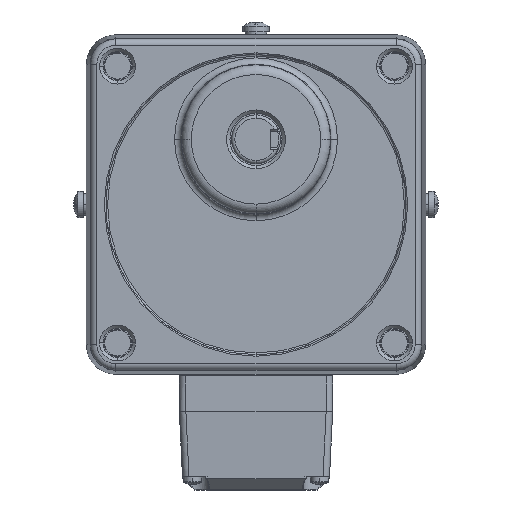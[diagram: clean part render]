
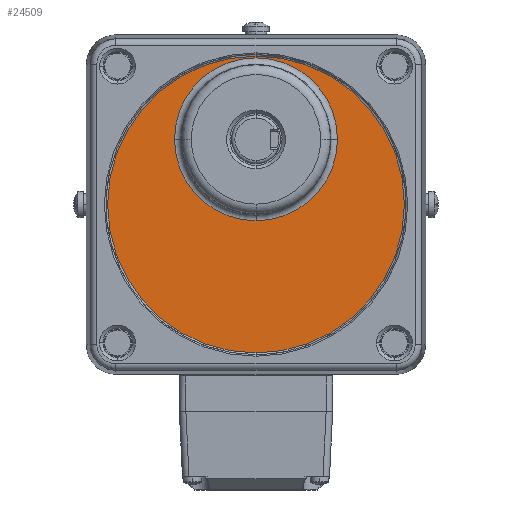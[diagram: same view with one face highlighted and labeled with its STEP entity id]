
A CAD part, left-side view. The second image highlights one B-rep face of the part: STEP entity #24509.
In plain terms, the highlighted planar face has unit normal (-1, 0, 0).
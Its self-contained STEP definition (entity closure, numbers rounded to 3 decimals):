
#2257 = ORIENTED_EDGE ( 'NONE', *, *, #15580, .F. ) ;
#2463 = DIRECTION ( 'NONE',  ( 0., 0., -1. ) ) ;
#2523 = EDGE_CURVE ( 'NONE', #26026, #26782, #23741, .T. ) ;
#2936 = DIRECTION ( 'NONE',  ( 0., -1., 0. ) ) ;
#3171 = CARTESIAN_POINT ( 'NONE',  ( 2949.725, -773.74, -45.491 ) ) ;
#3584 = EDGE_CURVE ( 'NONE', #11725, #34092, #39238, .T. ) ;
#4218 = CIRCLE ( 'NONE', #5624, 24.965 ) ;
#4325 = VERTEX_POINT ( 'NONE', #34793 ) ;
#5478 = CARTESIAN_POINT ( 'NONE',  ( 2949.725, -798.705, -20. ) ) ;
#5624 = AXIS2_PLACEMENT_3D ( 'NONE', #15687, #5798, #39011 ) ;
#5798 = DIRECTION ( 'NONE',  ( -1., 0., 0. ) ) ;
#7789 = ORIENTED_EDGE ( 'NONE', *, *, #14386, .F. ) ;
#9285 = CARTESIAN_POINT ( 'NONE',  ( 2949.725, -773.74, 0. ) ) ;
#10617 = DIRECTION ( 'NONE',  ( -1., 0., 0. ) ) ;
#11725 = VERTEX_POINT ( 'NONE', #21618 ) ;
#13341 = CIRCLE ( 'NONE', #19644, 24.965 ) ;
#14386 = EDGE_CURVE ( 'NONE', #34092, #11725, #22451, .T. ) ;
#15580 = EDGE_CURVE ( 'NONE', #26782, #4325, #13341, .T. ) ;
#15636 = EDGE_CURVE ( 'NONE', #4325, #26026, #4218, .T. ) ;
#15687 = CARTESIAN_POINT ( 'NONE',  ( 2949.725, -773.74, -20. ) ) ;
#16988 = FACE_BOUND ( 'NONE', #19391, .T. ) ;
#18678 = CARTESIAN_POINT ( 'NONE',  ( 2949.725, -773.74, 0. ) ) ;
#18695 = ORIENTED_EDGE ( 'NONE', *, *, #15636, .F. ) ;
#18936 = AXIS2_PLACEMENT_3D ( 'NONE', #9285, #35464, #2463 ) ;
#19391 = EDGE_LOOP ( 'NONE', ( #40666, #18695, #2257 ) ) ;
#19644 = AXIS2_PLACEMENT_3D ( 'NONE', #33046, #39219, #2936 ) ;
#21618 = CARTESIAN_POINT ( 'NONE',  ( 2949.725, -773.74, 45.491 ) ) ;
#21653 = CARTESIAN_POINT ( 'NONE',  ( 2949.725, -773.74, 4.965 ) ) ;
#22451 = CIRCLE ( 'NONE', #18936, 45.491 ) ;
#22992 = EDGE_LOOP ( 'NONE', ( #7789, #30287 ) ) ;
#23078 = AXIS2_PLACEMENT_3D ( 'NONE', #18678, #31225, #28368 ) ;
#23591 = PLANE ( 'NONE',  #37911 ) ;
#23741 = CIRCLE ( 'NONE', #26524, 24.965 ) ;
#24504 = DIRECTION ( 'NONE',  ( -1., 0., 0. ) ) ;
#24509 = ADVANCED_FACE ( 'NONE', ( #37443, #16988 ), #23591, .T. ) ;
#26026 = VERTEX_POINT ( 'NONE', #5478 ) ;
#26524 = AXIS2_PLACEMENT_3D ( 'NONE', #37704, #24504, #40778 ) ;
#26782 = VERTEX_POINT ( 'NONE', #21653 ) ;
#27322 = DIRECTION ( 'NONE',  ( 0., 0., 1. ) ) ;
#28368 = DIRECTION ( 'NONE',  ( 0., 0., 1. ) ) ;
#30287 = ORIENTED_EDGE ( 'NONE', *, *, #3584, .F. ) ;
#30402 = CARTESIAN_POINT ( 'NONE',  ( 2949.725, -773.74, 0. ) ) ;
#31225 = DIRECTION ( 'NONE',  ( 1., 0., 0. ) ) ;
#33046 = CARTESIAN_POINT ( 'NONE',  ( 2949.725, -773.74, -20. ) ) ;
#34092 = VERTEX_POINT ( 'NONE', #3171 ) ;
#34793 = CARTESIAN_POINT ( 'NONE',  ( 2949.725, -748.775, -20. ) ) ;
#35464 = DIRECTION ( 'NONE',  ( 1., 0., 0. ) ) ;
#37443 = FACE_OUTER_BOUND ( 'NONE', #22992, .T. ) ;
#37704 = CARTESIAN_POINT ( 'NONE',  ( 2949.725, -773.74, -20. ) ) ;
#37911 = AXIS2_PLACEMENT_3D ( 'NONE', #30402, #10617, #27322 ) ;
#39011 = DIRECTION ( 'NONE',  ( 0., 1., 0. ) ) ;
#39219 = DIRECTION ( 'NONE',  ( -1., 0., 0. ) ) ;
#39238 = CIRCLE ( 'NONE', #23078, 45.491 ) ;
#40666 = ORIENTED_EDGE ( 'NONE', *, *, #2523, .F. ) ;
#40778 = DIRECTION ( 'NONE',  ( 0., -1., 0. ) ) ;
